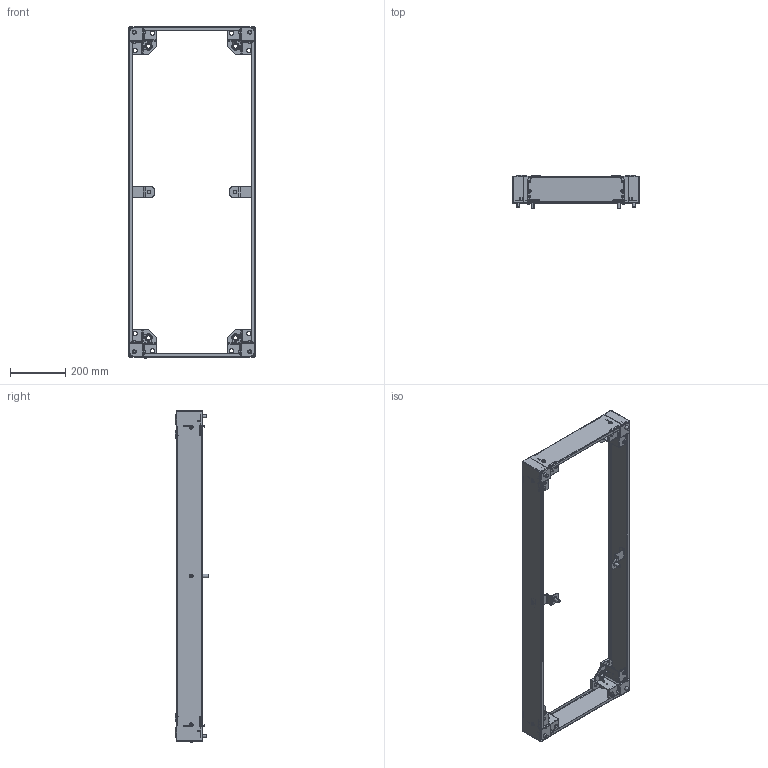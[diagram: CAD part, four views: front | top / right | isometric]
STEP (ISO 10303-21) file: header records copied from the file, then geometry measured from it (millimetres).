
FILE_DESCRIPTION (( 'STEP AP203' ), '1' );
FILE_NAME ('ppb1125.STEP', '2010-08-30T20:14:17', ( 'Hoffman User' ), ( 'Hoffman Enclosures' ), 'SwSTEP 2.0', 'SolidWorks 2009', '' );
FILE_SCHEMA (( 'CONFIG_CONTROL_DESIGN' ));
Products named in the file (10): 87551425; 99414993_99414993; 87545338; ppb1125; 60127131_60127131; 87542557; 87552308_FLEXIBLE; 52312101_DIN 6797-A13; 87540699_ Hex cap screw, M12 x 1.75 x 35; 87547883_87547883
Assembly tree (33 placements, depth 3):
  ppb1125
    87551425  x2
    60127131_60127131  x4
    87542557  x2
    87552308_FLEXIBLE
      87540699_ Hex cap screw, M12 x 1.75 x 35  x4
      87547883_87547883  x10
      99414993_99414993  x2
      87545338  x2
      52312101_DIN 6797-A13  x6
Bounding box: 464.13 x 121.57 x 1204.14 mm (x, y, z)
Volume: 1244047.3 mm3; surface area: 1071091.4 mm2
Topology: 32 solids, 32 shells, 4346 faces, 10450 edges, 6114 vertices
Faces by surface type: cylinder 1282, plane 1238, cone 1002, bspline 524, torus 172, sphere 128
Entity records: 43815 total; most frequent: CARTESIAN_POINT 19911, ORIENTED_EDGE 4764, DIRECTION 4531, EDGE_CURVE 2382, AXIS2_PLACEMENT_3D 1723, VERTEX_POINT 1421, VECTOR 1085, LINE 1085
